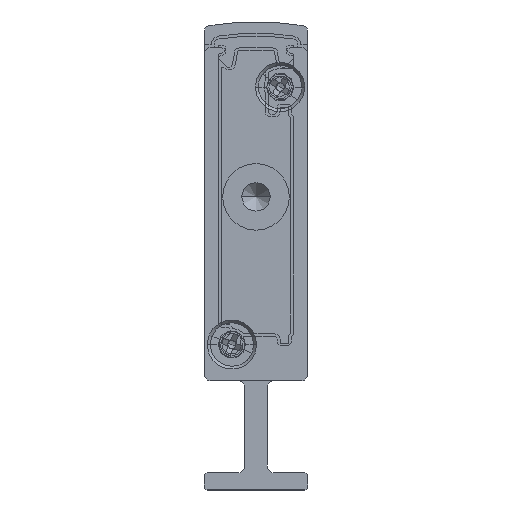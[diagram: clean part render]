
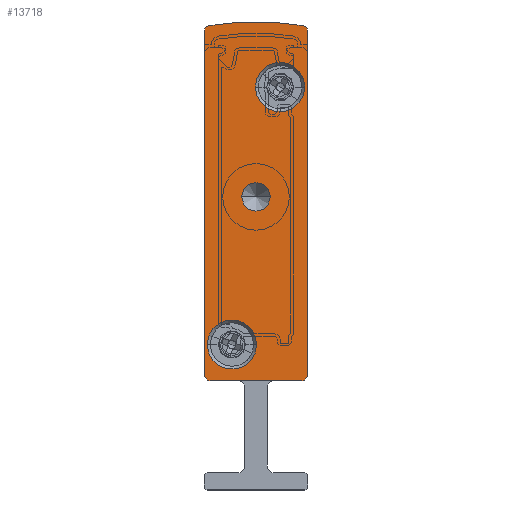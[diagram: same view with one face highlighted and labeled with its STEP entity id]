
A CAD part, front view. The second image highlights one B-rep face of the part: STEP entity #13718.
In plain terms, the highlighted planar face has unit normal (0, -1, 0).
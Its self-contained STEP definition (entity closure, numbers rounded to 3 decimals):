
#370 = CIRCLE ( 'NONE', #2111, 1.25 ) ;
#592 = FACE_OUTER_BOUND ( 'NONE', #12657, .T. ) ;
#887 = AXIS2_PLACEMENT_3D ( 'NONE', #29900, #32276, #9308 ) ;
#1495 = VERTEX_POINT ( 'NONE', #17394 ) ;
#1656 = VERTEX_POINT ( 'NONE', #17854 ) ;
#1682 = CARTESIAN_POINT ( 'NONE',  ( 4.5, -2.5, 17.092 ) ) ;
#2111 = AXIS2_PLACEMENT_3D ( 'NONE', #12281, #17590, #27991 ) ;
#2216 = AXIS2_PLACEMENT_3D ( 'NONE', #14238, #32324, #29625 ) ;
#2901 = AXIS2_PLACEMENT_3D ( 'NONE', #29326, #26608, #18819 ) ;
#2917 = CARTESIAN_POINT ( 'NONE',  ( 4.45, -2.5, 35.05 ) ) ;
#3138 = CARTESIAN_POINT ( 'NONE',  ( 0.5, -2.5, 39.902 ) ) ;
#3218 = ORIENTED_EDGE ( 'NONE', *, *, #29170, .F. ) ;
#3448 = ORIENTED_EDGE ( 'NONE', *, *, #30951, .F. ) ;
#3482 = EDGE_CURVE ( 'NONE', #31706, #20720, #370, .T. ) ;
#3914 = DIRECTION ( 'NONE',  ( 0., 1., 0. ) ) ;
#3921 = VERTEX_POINT ( 'NONE', #16189 ) ;
#4071 = EDGE_LOOP ( 'NONE', ( #17327, #24791 ) ) ;
#4098 = DIRECTION ( 'NONE',  ( -1., 0., 0. ) ) ;
#4727 = AXIS2_PLACEMENT_3D ( 'NONE', #1682, #3914, #22375 ) ;
#4929 = EDGE_CURVE ( 'NONE', #15132, #3921, #23254, .T. ) ;
#5604 = CIRCLE ( 'NONE', #16173, 2.15 ) ;
#5770 = CARTESIAN_POINT ( 'NONE',  ( 8.5, -2.5, 39.902 ) ) ;
#5797 = DIRECTION ( 'NONE',  ( 0., -1., 0. ) ) ;
#5827 = DIRECTION ( 'NONE',  ( 0., 1., 0. ) ) ;
#6035 = DIRECTION ( 'NONE',  ( 0., 1., 0. ) ) ;
#6181 = LINE ( 'NONE', #7422, #28338 ) ;
#6354 = CARTESIAN_POINT ( 'NONE',  ( 9., -2.5, 39.902 ) ) ;
#6360 = CARTESIAN_POINT ( 'NONE',  ( 0.5, -2.5, 10. ) ) ;
#6558 = CARTESIAN_POINT ( 'NONE',  ( 0.5, -2.5, 9.5 ) ) ;
#6671 = ORIENTED_EDGE ( 'NONE', *, *, #27864, .F. ) ;
#7339 = CARTESIAN_POINT ( 'NONE',  ( 9., -2.5, 10. ) ) ;
#7422 = CARTESIAN_POINT ( 'NONE',  ( 9., -2.5, 39.902 ) ) ;
#7814 = FACE_BOUND ( 'NONE', #4071, .T. ) ;
#8326 = ORIENTED_EDGE ( 'NONE', *, *, #22431, .F. ) ;
#8919 = CIRCLE ( 'NONE', #2216, 0.5 ) ;
#9033 = FACE_BOUND ( 'NONE', #32220, .T. ) ;
#9126 = AXIS2_PLACEMENT_3D ( 'NONE', #10823, #31345, #15748 ) ;
#9295 = EDGE_CURVE ( 'NONE', #15043, #1495, #11253, .T. ) ;
#9308 = DIRECTION ( 'NONE',  ( 1., 0., 0. ) ) ;
#9553 = AXIS2_PLACEMENT_3D ( 'NONE', #6360, #6035, #16764 ) ;
#9648 = ORIENTED_EDGE ( 'NONE', *, *, #30601, .F. ) ;
#9748 = CARTESIAN_POINT ( 'NONE',  ( 8.75, -2.5, 35.05 ) ) ;
#9843 = ORIENTED_EDGE ( 'NONE', *, *, #24606, .F. ) ;
#10823 = CARTESIAN_POINT ( 'NONE',  ( 4.5, -2.5, 25.5 ) ) ;
#11003 = ORIENTED_EDGE ( 'NONE', *, *, #9295, .F. ) ;
#11245 = DIRECTION ( 'NONE',  ( -1., 0., 0. ) ) ;
#11253 = LINE ( 'NONE', #6558, #17261 ) ;
#11580 = CARTESIAN_POINT ( 'NONE',  ( 0.5, -2.5, 39.902 ) ) ;
#11888 = ORIENTED_EDGE ( 'NONE', *, *, #28454, .F. ) ;
#11955 = AXIS2_PLACEMENT_3D ( 'NONE', #3138, #5827, #21132 ) ;
#12281 = CARTESIAN_POINT ( 'NONE',  ( 4.5, -2.5, 25.5 ) ) ;
#12634 = VERTEX_POINT ( 'NONE', #2917 ) ;
#12657 = EDGE_LOOP ( 'NONE', ( #6671, #13627, #8326, #11003, #11888, #3448, #9648, #31419 ) ) ;
#13167 = CIRCLE ( 'NONE', #2901, 2.15 ) ;
#13596 = VERTEX_POINT ( 'NONE', #6354 ) ;
#13627 = ORIENTED_EDGE ( 'NONE', *, *, #27814, .F. ) ;
#13718 = ADVANCED_FACE ( 'NONE', ( #9033, #21519, #592, #7814 ), #27049, .F. ) ;
#13754 = CIRCLE ( 'NONE', #30334, 0.5 ) ;
#14238 = CARTESIAN_POINT ( 'NONE',  ( 8.5, -2.5, 10. ) ) ;
#14870 = VERTEX_POINT ( 'NONE', #9748 ) ;
#15043 = VERTEX_POINT ( 'NONE', #29007 ) ;
#15132 = VERTEX_POINT ( 'NONE', #24342 ) ;
#15748 = DIRECTION ( 'NONE',  ( -1., 0., 0. ) ) ;
#16173 = AXIS2_PLACEMENT_3D ( 'NONE', #23908, #5797, #26398 ) ;
#16189 = CARTESIAN_POINT ( 'NONE',  ( 8.592, -2.5, 40.393 ) ) ;
#16757 = DIRECTION ( 'NONE',  ( 0., 1., 0. ) ) ;
#16764 = DIRECTION ( 'NONE',  ( -1., 0., 0. ) ) ;
#17261 = VECTOR ( 'NONE', #11245, 1000. ) ;
#17327 = ORIENTED_EDGE ( 'NONE', *, *, #29318, .T. ) ;
#17394 = CARTESIAN_POINT ( 'NONE',  ( 0.5, -2.5, 9.5 ) ) ;
#17590 = DIRECTION ( 'NONE',  ( 0., 1., 0. ) ) ;
#17615 = CIRCLE ( 'NONE', #9126, 1.25 ) ;
#17854 = CARTESIAN_POINT ( 'NONE',  ( 4.55, -2.5, 12.65 ) ) ;
#18489 = CARTESIAN_POINT ( 'NONE',  ( 0.25, -2.5, 12.65 ) ) ;
#18536 = CARTESIAN_POINT ( 'NONE',  ( 0., -2.5, 39.902 ) ) ;
#18642 = DIRECTION ( 'NONE',  ( 0., 0., 1. ) ) ;
#18819 = DIRECTION ( 'NONE',  ( 1., 0., 0. ) ) ;
#18927 = ORIENTED_EDGE ( 'NONE', *, *, #23097, .F. ) ;
#19425 = CIRCLE ( 'NONE', #11955, 0.5 ) ;
#19812 = AXIS2_PLACEMENT_3D ( 'NONE', #11580, #16757, #4098 ) ;
#19904 = ORIENTED_EDGE ( 'NONE', *, *, #25930, .F. ) ;
#20077 = CARTESIAN_POINT ( 'NONE',  ( 6.6, -2.5, 35.05 ) ) ;
#20720 = VERTEX_POINT ( 'NONE', #22117 ) ;
#21132 = DIRECTION ( 'NONE',  ( -1., 0., 0. ) ) ;
#21517 = DIRECTION ( 'NONE',  ( 0., 1., 0. ) ) ;
#21519 = FACE_BOUND ( 'NONE', #25584, .T. ) ;
#21873 = CARTESIAN_POINT ( 'NONE',  ( 5.75, -2.5, 25.5 ) ) ;
#22117 = CARTESIAN_POINT ( 'NONE',  ( 3.25, -2.5, 25.5 ) ) ;
#22267 = CIRCLE ( 'NONE', #887, 2.15 ) ;
#22295 = CARTESIAN_POINT ( 'NONE',  ( 0., -2.5, 10. ) ) ;
#22375 = DIRECTION ( 'NONE',  ( -1., 0., 0. ) ) ;
#22431 = EDGE_CURVE ( 'NONE', #1495, #27569, #27343, .T. ) ;
#23097 = EDGE_CURVE ( 'NONE', #12634, #14870, #23585, .T. ) ;
#23254 = CIRCLE ( 'NONE', #4727, 23.658 ) ;
#23585 = CIRCLE ( 'NONE', #23602, 2.15 ) ;
#23602 = AXIS2_PLACEMENT_3D ( 'NONE', #20077, #30330, #33055 ) ;
#23908 = CARTESIAN_POINT ( 'NONE',  ( 6.6, -2.5, 35.05 ) ) ;
#24342 = CARTESIAN_POINT ( 'NONE',  ( 0.408, -2.5, 40.393 ) ) ;
#24606 = EDGE_CURVE ( 'NONE', #30292, #1656, #22267, .T. ) ;
#24697 = LINE ( 'NONE', #18536, #31570 ) ;
#24791 = ORIENTED_EDGE ( 'NONE', *, *, #3482, .T. ) ;
#25584 = EDGE_LOOP ( 'NONE', ( #3218, #9843 ) ) ;
#25930 = EDGE_CURVE ( 'NONE', #14870, #12634, #5604, .T. ) ;
#26398 = DIRECTION ( 'NONE',  ( 1., 0., 0. ) ) ;
#26608 = DIRECTION ( 'NONE',  ( 0., -1., 0. ) ) ;
#26698 = DIRECTION ( 'NONE',  ( -1., 0., 0. ) ) ;
#27049 = PLANE ( 'NONE',  #19812 ) ;
#27343 = CIRCLE ( 'NONE', #9553, 0.5 ) ;
#27422 = CARTESIAN_POINT ( 'NONE',  ( 0., -2.5, 39.902 ) ) ;
#27569 = VERTEX_POINT ( 'NONE', #22295 ) ;
#27814 = EDGE_CURVE ( 'NONE', #27569, #28905, #24697, .T. ) ;
#27864 = EDGE_CURVE ( 'NONE', #28905, #15132, #19425, .T. ) ;
#27991 = DIRECTION ( 'NONE',  ( -1., 0., 0. ) ) ;
#28159 = DIRECTION ( 'NONE',  ( 0., 0., -1. ) ) ;
#28338 = VECTOR ( 'NONE', #28159, 1000. ) ;
#28454 = EDGE_CURVE ( 'NONE', #30587, #15043, #8919, .T. ) ;
#28905 = VERTEX_POINT ( 'NONE', #27422 ) ;
#29007 = CARTESIAN_POINT ( 'NONE',  ( 8.5, -2.5, 9.5 ) ) ;
#29170 = EDGE_CURVE ( 'NONE', #1656, #30292, #13167, .T. ) ;
#29318 = EDGE_CURVE ( 'NONE', #20720, #31706, #17615, .T. ) ;
#29326 = CARTESIAN_POINT ( 'NONE',  ( 2.4, -2.5, 12.65 ) ) ;
#29625 = DIRECTION ( 'NONE',  ( -1., 0., 0. ) ) ;
#29900 = CARTESIAN_POINT ( 'NONE',  ( 2.4, -2.5, 12.65 ) ) ;
#30292 = VERTEX_POINT ( 'NONE', #18489 ) ;
#30330 = DIRECTION ( 'NONE',  ( 0., -1., 0. ) ) ;
#30334 = AXIS2_PLACEMENT_3D ( 'NONE', #5770, #21517, #26698 ) ;
#30587 = VERTEX_POINT ( 'NONE', #7339 ) ;
#30601 = EDGE_CURVE ( 'NONE', #3921, #13596, #13754, .T. ) ;
#30951 = EDGE_CURVE ( 'NONE', #13596, #30587, #6181, .T. ) ;
#31345 = DIRECTION ( 'NONE',  ( 0., 1., 0. ) ) ;
#31419 = ORIENTED_EDGE ( 'NONE', *, *, #4929, .F. ) ;
#31570 = VECTOR ( 'NONE', #18642, 1000. ) ;
#31706 = VERTEX_POINT ( 'NONE', #21873 ) ;
#32220 = EDGE_LOOP ( 'NONE', ( #19904, #18927 ) ) ;
#32276 = DIRECTION ( 'NONE',  ( 0., -1., 0. ) ) ;
#32324 = DIRECTION ( 'NONE',  ( 0., 1., 0. ) ) ;
#33055 = DIRECTION ( 'NONE',  ( 1., 0., 0. ) ) ;
